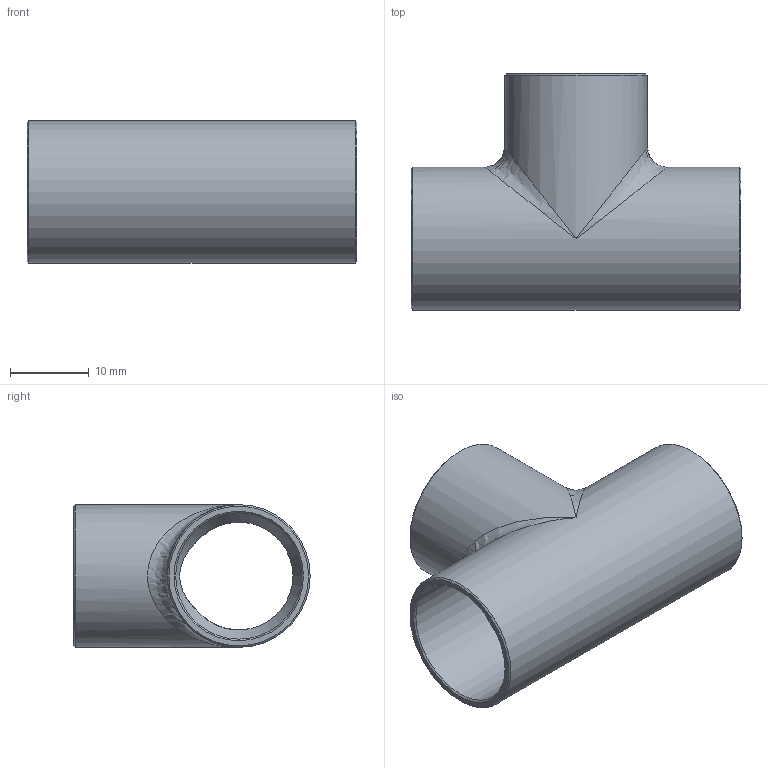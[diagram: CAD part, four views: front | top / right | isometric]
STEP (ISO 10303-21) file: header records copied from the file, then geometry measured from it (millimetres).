
FILE_DESCRIPTION((''),'2;1');
FILE_NAME('G:\SANHA-Ternat\Technik\Management\Bouwmaten + markeringen\z-maattekeningen 3D\29000s\2913058_3d.stp','2017-07-26T15:40:19',('vdvijverd'),(''),'Autodesk Inventor 2009','Autodesk Inventor 2009','');
FILE_SCHEMA(('AUTOMOTIVE_DESIGN { 1 0 10303 214 1 1 1 1 }'));
Length unit declared in the file: millimetre
Products named in the file (1): 2913058_3d
Bounding box: 41.8 x 29.95 x 18.1 mm (x, y, z)
Volume: 3783.2 mm3; surface area: 5624.8 mm2
Topology: 1 solids, 1 shells, 24 faces, 70 edges, 39 vertices
Faces by surface type: cone 8, cylinder 7, bspline 6, plane 3
Full cylindrical faces by diameter (mm): 15.995 x2, 18.1 x2
Entity records: 1342 total; most frequent: CARTESIAN_POINT 817, DIRECTION 112, ORIENTED_EDGE 82, AXIS2_PLACEMENT_3D 56, EDGE_LOOP 42, EDGE_CURVE 41, VERTEX_POINT 33, FACE_OUTER_BOUND 24
